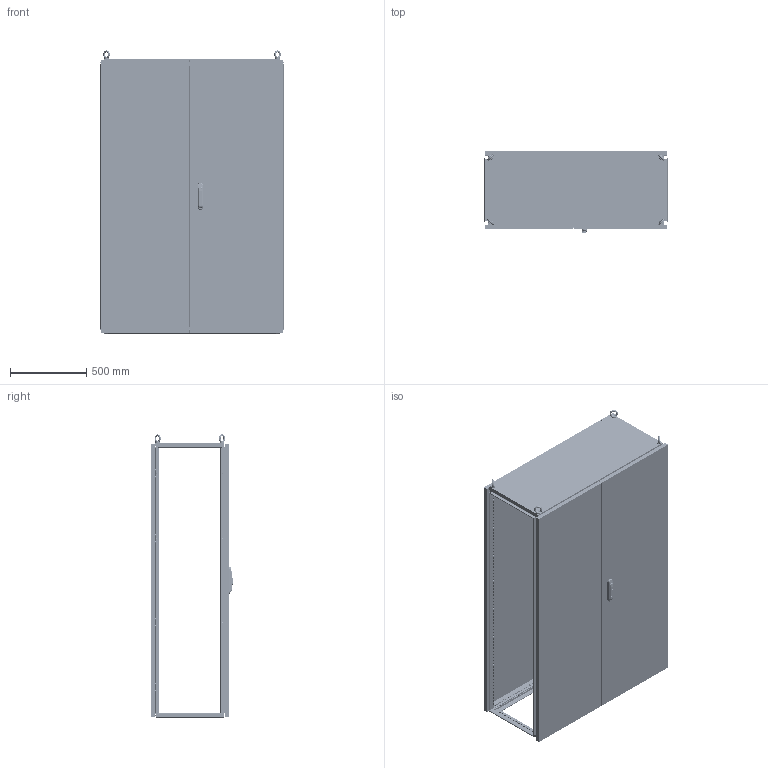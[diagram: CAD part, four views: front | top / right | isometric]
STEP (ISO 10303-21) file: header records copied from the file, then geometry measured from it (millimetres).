
FILE_DESCRIPTION(/* description */ ('Unknown'),/* implementation_level */ '2;1');
FILE_NAME(/* name */ 'MCA12018050',/* time_stamp */ '2025-03-07T10:39:18+01:00',/* author */ ('Unknown'),/* organization */ ('Unknown'),/* preprocessor_version */ 'ST-DEVELOPER v19.4',/* originating_system */ 'Solid Edge',/* authorisation */ 'Unknown');
FILE_SCHEMA (('CONFIG_CONTROL_DESIGN','INTEGRATED_CNC_SCHEMA'));
Products named in the file (61): MCA12018050; F0000000.08; AE00198.03; F000X001.79; F000X001.11; F000X001.12; F0000000.91; AE00417.01; AE00413.05; F000X001.09; F0000002.21; F0000002.15; AE01400.01; AE00222.15; AE00636.02; AE00316.01; F0000000.12; AE00992.31; AE00992.10_oa_0; AE00992.18; AE00992.77; AE00992.14; AE00989.13; AE00992.16; AE00315.01; M000X000.33; M0000000.29; AE00500.10; M000X000.34; M0000000.38; M0000000.44; M0000000.06; M000X000.35; M0000000.48; M0000000.49; AE00219.03; C0000000.06; C0000001.23; C0000000.06_GOMMA; AE00715.01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
Assembly tree (284 placements, depth 5):
  MCA12018050
    F0000000.08  x8
    AE00198.03  x16
    F000X001.79
      F000X001.11
        F000X001.12
          F0000000.91
        AE00417.01  x2
        AE00413.05  x4
        F000X001.09
          F0000002.21  x2
          F0000002.15  x2
          AE01400.01  x4
      AE00222.15  x8
      AE00636.02  x8
      AE00316.01  x8
      F0000000.12  x8
      AE00992.31
      AE00992.10_oa_0
      AE00992.18  x4
      AE00992.77  x2
      AE00992.14
      AE00989.13
      AE00992.16
      AE00315.01  x4
    M000X000.33
      M0000000.29  x4
      AE00500.10  x52
      M000X000.34  x2
        M0000000.38
        M0000000.44
        M0000000.06
        M000X000.35
          M0000000.48
          M0000000.49
    AE00219.03  x10
    C0000000.06  x4
      C0000001.23
      C0000000.06_GOMMA
    AE00715.01  x4
    M000X000.07
      M0000000.17
    F0000000.13  x8
    F000X001.76
      F000X001.77
        F0000001.37
      F0000000.07  x2
      AE00100.03_oa_1
      AE00100.03_oa_2
      AE00100.03_oa_3
      AE00100.03_oa_4
    AE00701.03  x8
    M0000000.37  x10
    F000X001.78
      F000X001.07
        F000X001.08
          F0000000.89
        F000X001.09
          F0000002.21  x2
          F0000002.15  x2
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Bounding box: 1200 x 538.2 x 1856.99 mm (x, y, z)
Volume: 25215051.8 mm3; surface area: 18883073.9 mm2
Topology: 314 solids, 314 shells, 13165 faces, 37326 edges, 24999 vertices
Faces by surface type: plane 9191, cylinder 3147, cone 688, torus 90, bspline 25, sphere 24
Full cylindrical faces by diameter (mm): 2 x4, 2.6 x8, 3 x1, 3.2 x2, 3.242 x2, 4 x26, 4.134 x9, 4.25 x340, 4.5 x1102, 4.8 x8, 4.917 x74, 4.918 x16, 5 x20, 5.5 x2, 6 x88, 6.1 x40, 6.2 x17, 6.5 x24, 6.8 x2, 7.5 x4, 7.8 x4, 8 x12, 8.3 x16, 8.5 x2, 9 x52, 10 x1, 10.106 x8, 10.5 x16, 11.8 x16, 12 x22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
Entity records: 103473 total; most frequent: CARTESIAN_POINT 18446, ORIENTED_EDGE 15930, DIRECTION 15820, EDGE_CURVE 7965, LINE 6224, VECTOR 6224, VERTEX_POINT 5624, FACE_BOUND 5097
